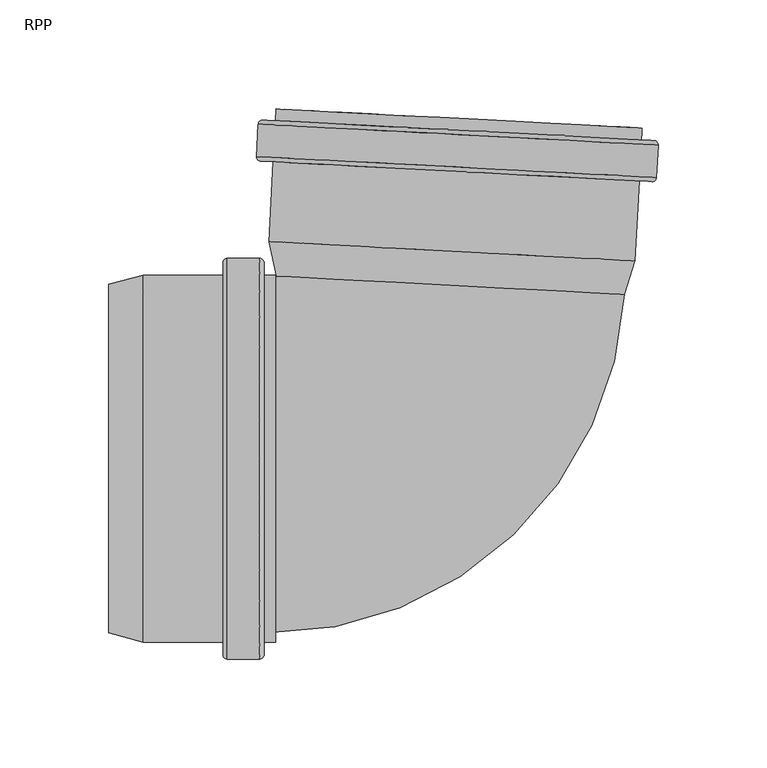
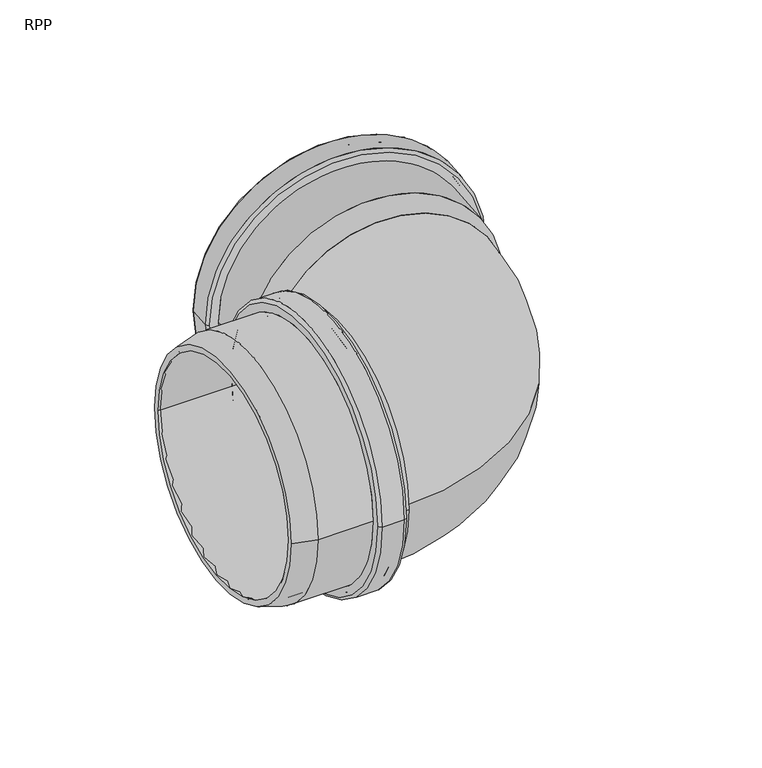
"""IFC4 building model written with IfcOpenShell, lengths in millimetres: pipe fitting geometry, RAUPIANO PLUS Bend : RPP."""

from ifc_helpers import new_model, si_unit, point, frame, origin, place, context, project, spatial, polyline, circle_curve, ellipse_curve, trimmed, source, transform, mapped, element, save
from ifc_brep_helpers import plane_surface, cylinder_surface, revolved_surface, advanced_brep


def rpp_3cfaf62b(model_context):
    return source(origin(), model_context, "Body", "AdvancedBrep", [
        advanced_brep(
        [(-96.4130236, -80.3, 0.0), (-96.4130236, 80.3, 0.0), (-136.5249655, 80.3, 0.0), (-136.5249655, -80.3, 0.0), (-95.9130236, -88.1, 0.0), (-95.9130236, 88.1, 0.0), (-96.4130236, 87.6, 0.0), (-96.4130236, -87.6, 0.0), (-85.8130236, -88.1, 0.0), (-85.8130236, 88.1, 0.0), (-85.3130236, -87.6, 0.0), (-85.3130236, 87.6, 0.0), (-76.0130236, -80.3, 0.0), (-76.0130236, 80.3, 0.0), (-85.3130236, 80.3, 0.0), (-85.3130236, -80.3, 0.0), (-81.4130236, -84.2, 0.0), (-81.4130236, 84.2, 0.0), (-76.0130236, 84.2, 0.0), (-76.0130236, -84.2, 0.0), (-83.4130236, -92.0, 0.0), (-83.4130236, 92.0, 0.0), (-81.4130236, 90.0, 0.0), (-81.4130236, -90.0, 0.0), (-98.3130236, -92.0, 0.0), (-98.3130236, 92.0, 0.0), (-100.3130236, -90.0, 0.0), (-100.3130236, 90.0, 0.0), (-137.0384102, -84.2, 0.0), (-137.0384102, 84.2, 0.0), (-100.3130236, 84.2, 0.0), (-100.3130236, -84.2, 0.0), (-152.7130236, -80.0, 0.0), (-152.7130236, 80.0, 0.0), (-152.7130236, 75.9624229, 0.0), (-152.7130236, -75.9624229, 0.0)],
        [
            (0, 1, circle_curve(frame((-96.4130236, 0.0, 0.0), z_axis=(1.0, 0.0, 0.0), x_axis=(0.0, 1.0, 0.0)), 80.3)),
            (1, 2),
            (2, 3, circle_curve(frame((-136.5249655, 0.0, 0.0), z_axis=(-1.0, 0.0, 0.0), x_axis=(0.0, 1.0, 0.0)), 80.3)),
            (3, 0),
            (4, 5, circle_curve(frame((-95.9130236, 0.0, 0.0), z_axis=(1.0, 0.0, 0.0), x_axis=(0.0, 1.0, 0.0)), 88.1)),
            (5, 6, circle_curve(frame((-95.9130236, 87.6, 0.0), z_axis=(0.0, 0.0, 1.0), x_axis=(0.0, -1.0, 0.0)), 0.5)),
            (6, 7, circle_curve(frame((-96.4130236, 0.0, 0.0), z_axis=(-1.0, 0.0, 0.0), x_axis=(0.0, 1.0, 0.0)), 87.6)),
            (7, 4, circle_curve(frame((-95.9130236, -87.6, 0.0), z_axis=(0.0, 0.0, 1.0), x_axis=(0.0, 1.0, 0.0)), 0.5)),
            (8, 9, circle_curve(frame((-85.8130236, 0.0, 0.0), z_axis=(1.0, 0.0, 0.0), x_axis=(0.0, 1.0, 0.0)), 88.1)),
            (9, 5),
            (4, 8),
            (10, 11, circle_curve(frame((-85.3130236, 0.0, 0.0), z_axis=(1.0, 0.0, 0.0), x_axis=(0.0, 1.0, 0.0)), 87.6)),
            (11, 9, circle_curve(frame((-85.8130236, 87.6, 0.0), z_axis=(0.0, 0.0, 1.0), x_axis=(0.0, -1.0, 0.0)), 0.5)),
            (8, 10, circle_curve(frame((-85.8130236, -87.6, 0.0), z_axis=(0.0, 0.0, 1.0), x_axis=(0.0, 1.0, 0.0)), 0.5)),
            (12, 13, circle_curve(frame((-76.0130236, 0.0, 0.0), z_axis=(1.0, 0.0, 0.0), x_axis=(0.0, 1.0, 0.0)), 80.3)),
            (13, 14),
            (14, 15, circle_curve(frame((-85.3130236, 0.0, 0.0), z_axis=(-1.0, 0.0, 0.0), x_axis=(0.0, 1.0, 0.0)), 80.3)),
            (15, 12),
            (16, 17, circle_curve(frame((-81.4130236, 0.0, 0.0), z_axis=(1.0, 0.0, 0.0), x_axis=(0.0, 1.0, 0.0)), 84.2)),
            (17, 18),
            (18, 19, circle_curve(frame((-76.0130236, 0.0, 0.0), z_axis=(-1.0, 0.0, 0.0), x_axis=(0.0, 1.0, 0.0)), 84.2)),
            (19, 16),
            (20, 21, circle_curve(frame((-83.4130236, 0.0, 0.0), z_axis=(1.0, 0.0, 0.0), x_axis=(0.0, 1.0, 0.0)), 92.0)),
            (21, 22, circle_curve(frame((-83.4130236, 90.0, 0.0), z_axis=(0.0, 0.0, -1.0), x_axis=(0.0, -1.0, 0.0)), 2.0)),
            (22, 23, circle_curve(frame((-81.4130236, 0.0, 0.0), z_axis=(-1.0, 0.0, 0.0), x_axis=(0.0, 1.0, 0.0)), 90.0)),
            (23, 20, circle_curve(frame((-83.4130236, -90.0, 0.0), z_axis=(0.0, 0.0, -1.0), x_axis=(0.0, 1.0, 0.0)), 2.0)),
            (24, 25, circle_curve(frame((-98.3130236, 0.0, 0.0), z_axis=(1.0, 0.0, 0.0), x_axis=(0.0, 1.0, 0.0)), 92.0)),
            (25, 21),
            (20, 24),
            (26, 27, circle_curve(frame((-100.3130236, 0.0, 0.0), z_axis=(1.0, 0.0, 0.0), x_axis=(0.0, 1.0, 0.0)), 90.0)),
            (27, 25, circle_curve(frame((-98.3130236, 90.0, 0.0), z_axis=(0.0, 0.0, -1.0), x_axis=(0.0, -1.0, 0.0)), 2.0)),
            (24, 26, circle_curve(frame((-98.3130236, -90.0, 0.0), z_axis=(0.0, 0.0, -1.0), x_axis=(0.0, 1.0, 0.0)), 2.0)),
            (28, 29, circle_curve(frame((-137.0384102, 0.0, 0.0), z_axis=(1.0, 0.0, 0.0), x_axis=(0.0, 1.0, 0.0)), 84.2)),
            (29, 30),
            (30, 31, circle_curve(frame((-100.3130236, 0.0, 0.0), z_axis=(-1.0, 0.0, 0.0), x_axis=(0.0, 1.0, 0.0)), 84.2)),
            (31, 28),
            (32, 33, circle_curve(frame((-152.7130236, 0.0, 0.0), z_axis=(1.0, 0.0, 0.0), x_axis=(0.0, 1.0, 0.0)), 80.0)),
            (33, 29),
            (28, 32),
            (2, 34),
            (34, 35, circle_curve(frame((-152.7130236, 0.0, 0.0), z_axis=(-1.0, 0.0, 0.0), x_axis=(0.0, 1.0, 0.0)), 75.9624229)),
            (35, 3),
            (1, 0, circle_curve(frame((-96.4130236, 0.0, 0.0), z_axis=(1.0, 0.0, 0.0), x_axis=(0.0, -1.0, 0.0)), 80.3)),
            (3, 2, circle_curve(frame((-136.5249655, 0.0, 0.0), z_axis=(-1.0, 0.0, 0.0), x_axis=(0.0, -1.0, 0.0)), 80.3)),
            (6, 7, circle_curve(frame((-96.4130236, 0.0, 0.0), z_axis=(1.0, 0.0, 0.0), x_axis=(0.0, -1.0, 0.0)), 87.6)),
            (5, 4, circle_curve(frame((-95.9130236, 0.0, 0.0), z_axis=(1.0, 0.0, 0.0), x_axis=(0.0, -1.0, 0.0)), 88.1)),
            (9, 8, circle_curve(frame((-85.8130236, 0.0, 0.0), z_axis=(1.0, 0.0, 0.0), x_axis=(0.0, -1.0, 0.0)), 88.1)),
            (11, 10, circle_curve(frame((-85.3130236, 0.0, 0.0), z_axis=(1.0, 0.0, 0.0), x_axis=(0.0, -1.0, 0.0)), 87.6)),
            (14, 15, circle_curve(frame((-85.3130236, 0.0, 0.0), z_axis=(1.0, 0.0, 0.0), x_axis=(0.0, -1.0, 0.0)), 80.3)),
            (13, 12, circle_curve(frame((-76.0130236, 0.0, 0.0), z_axis=(1.0, 0.0, 0.0), x_axis=(0.0, -1.0, 0.0)), 80.3)),
            (18, 19, circle_curve(frame((-76.0130236, 0.0, 0.0), z_axis=(1.0, 0.0, 0.0), x_axis=(0.0, -1.0, 0.0)), 84.2)),
            (17, 16, circle_curve(frame((-81.4130236, 0.0, 0.0), z_axis=(1.0, 0.0, 0.0), x_axis=(0.0, -1.0, 0.0)), 84.2)),
            (22, 23, circle_curve(frame((-81.4130236, 0.0, 0.0), z_axis=(1.0, 0.0, 0.0), x_axis=(0.0, -1.0, 0.0)), 90.0)),
            (21, 20, circle_curve(frame((-83.4130236, 0.0, 0.0), z_axis=(1.0, 0.0, 0.0), x_axis=(0.0, -1.0, 0.0)), 92.0)),
            (25, 24, circle_curve(frame((-98.3130236, 0.0, 0.0), z_axis=(1.0, 0.0, 0.0), x_axis=(0.0, -1.0, 0.0)), 92.0)),
            (27, 26, circle_curve(frame((-100.3130236, 0.0, 0.0), z_axis=(1.0, 0.0, 0.0), x_axis=(0.0, -1.0, 0.0)), 90.0)),
            (30, 31, circle_curve(frame((-100.3130236, 0.0, 0.0), z_axis=(1.0, 0.0, 0.0), x_axis=(0.0, -1.0, 0.0)), 84.2)),
            (29, 28, circle_curve(frame((-137.0384102, 0.0, 0.0), z_axis=(1.0, 0.0, 0.0), x_axis=(0.0, -1.0, 0.0)), 84.2)),
            (33, 32, circle_curve(frame((-152.7130236, 0.0, 0.0), z_axis=(1.0, 0.0, 0.0), x_axis=(0.0, -1.0, 0.0)), 80.0)),
            (34, 35, circle_curve(frame((-152.7130236, 0.0, 0.0), z_axis=(1.0, 0.0, 0.0), x_axis=(0.0, -1.0, 0.0)), 75.9624229)),
        ],
        [
            revolved_surface(polyline([(-136.5249655, 80.3, 0.0), (-96.4130236, 80.3, 0.0)]), (-152.7130236, 0.0, 0.0), (-1.0, 0.0, 0.0)),
            revolved_surface(trimmed(ellipse_curve(frame((-95.9130236, 87.6, 0.0), z_axis=(0.0, 0.0, -1.0), x_axis=(0.0, -1.0, 0.0)), 0.5, 0.5), [point((-96.4130236, 87.6, 0.0))], [point((-95.9130236, 88.1, 0.0))], True, "CARTESIAN"), (-152.7130236, 0.0, 0.0), (-1.0, 0.0, 0.0)),
            revolved_surface(polyline([(-95.9130236, 88.1, 0.0), (-85.8130236, 88.1, 0.0)]), (-152.7130236, 0.0, 0.0), (-1.0, 0.0, 0.0)),
            revolved_surface(trimmed(ellipse_curve(frame((-85.8130236, 87.6, 0.0), z_axis=(0.0, 0.0, -1.0), x_axis=(0.0, -1.0, 0.0)), 0.5, 0.5), [point((-85.8130236, 88.1, 0.0))], [point((-85.3130236, 87.6, 0.0))], True, "CARTESIAN"), (-152.7130236, 0.0, 0.0), (-1.0, 0.0, 0.0)),
            revolved_surface(polyline([(-85.3130236, 80.3, 0.0), (-76.0130236, 80.3, 0.0)]), (-152.7130236, 0.0, 0.0), (-1.0, 0.0, 0.0)),
            cylinder_surface(frame((-152.7130236, 0.0, 0.0), z_axis=(-1.0, 0.0, 0.0), x_axis=(0.0, 1.0, 0.0)), 84.2),
            revolved_surface(trimmed(ellipse_curve(frame((-83.4130236, 90.0, 0.0), z_axis=(0.0, 0.0, 1.0), x_axis=(0.0, -1.0, 0.0)), 2.0, 2.0), [point((-81.4130236, 90.0, 0.0))], [point((-83.4130236, 92.0, 0.0))], True, "CARTESIAN"), (-152.7130236, 0.0, 0.0), (-1.0, 0.0, 0.0)),
            cylinder_surface(frame((-152.7130236, 0.0, 0.0), z_axis=(-1.0, 0.0, 0.0), x_axis=(0.0, 1.0, 0.0)), 92.0),
            revolved_surface(trimmed(ellipse_curve(frame((-98.3130236, 90.0, 0.0), z_axis=(0.0, 0.0, 1.0), x_axis=(0.0, -1.0, 0.0)), 2.0, 2.0), [point((-98.3130236, 92.0, 0.0))], [point((-100.3130236, 90.0, 0.0))], True, "CARTESIAN"), (-152.7130236, 0.0, 0.0), (-1.0, 0.0, 0.0)),
            revolved_surface(polyline([(-137.0384102, 84.2, 0.0), (-152.7130236, 80.0, 0.0)]), (-152.7130236, 0.0, 0.0), (-1.0, 0.0, 0.0)),
            revolved_surface(polyline([(-152.7130236, 75.9624229, 0.0), (-136.5249655, 80.3, 0.0)]), (-152.7130236, 0.0, 0.0), (-1.0, 0.0, 0.0)),
            revolved_surface(polyline([(-136.5249655, -80.3, 0.0), (-96.4130236, -80.3, 0.0)]), (-152.7130236, 0.0, 0.0), (-1.0, 0.0, 0.0)),
            plane_surface(frame((-96.4130236, 0.0, 0.0), z_axis=(1.0, 0.0, 0.0), x_axis=(0.0, -1.0, 0.0))),
            revolved_surface(trimmed(ellipse_curve(frame((-95.9130236, -87.6, 0.0), z_axis=(0.0, 0.0, 1.0), x_axis=(0.0, 1.0, 0.0)), 0.5, 0.5), [point((-96.4130236, -87.6, 0.0))], [point((-95.9130236, -88.1, 0.0))], True, "CARTESIAN"), (-152.7130236, 0.0, 0.0), (-1.0, 0.0, 0.0)),
            revolved_surface(polyline([(-95.9130236, -88.1, 0.0), (-85.8130236, -88.1, 0.0)]), (-152.7130236, 0.0, 0.0), (-1.0, 0.0, 0.0)),
            revolved_surface(trimmed(ellipse_curve(frame((-85.8130236, -87.6, 0.0), z_axis=(0.0, 0.0, 1.0), x_axis=(0.0, 1.0, 0.0)), 0.5, 0.5), [point((-85.8130236, -88.1, 0.0))], [point((-85.3130236, -87.6, 0.0))], True, "CARTESIAN"), (-152.7130236, 0.0, 0.0), (-1.0, 0.0, 0.0)),
            plane_surface(frame((-85.3130236, 0.0, 0.0), z_axis=(-1.0, 0.0, 0.0), x_axis=(0.0, -1.0, 0.0))),
            revolved_surface(polyline([(-85.3130236, -80.3, 0.0), (-76.0130236, -80.3, 0.0)]), (-152.7130236, 0.0, 0.0), (-1.0, 0.0, 0.0)),
            plane_surface(frame((-76.0130236, 0.0, 0.0), z_axis=(1.0, 0.0, 0.0), x_axis=(0.0, -1.0, 0.0))),
            cylinder_surface(frame((-152.7130236, 0.0, 0.0), z_axis=(-1.0, 0.0, 0.0), x_axis=(0.0, -1.0, 0.0)), 84.2),
            plane_surface(frame((-81.4130236, 0.0, 0.0), z_axis=(1.0, 0.0, 0.0), x_axis=(0.0, -1.0, 0.0))),
            revolved_surface(trimmed(ellipse_curve(frame((-83.4130236, -90.0, 0.0), z_axis=(0.0, 0.0, -1.0), x_axis=(0.0, 1.0, 0.0)), 2.0, 2.0), [point((-81.4130236, -90.0, 0.0))], [point((-83.4130236, -92.0, 0.0))], True, "CARTESIAN"), (-152.7130236, 0.0, 0.0), (-1.0, 0.0, 0.0)),
            cylinder_surface(frame((-152.7130236, 0.0, 0.0), z_axis=(-1.0, 0.0, 0.0), x_axis=(0.0, -1.0, 0.0)), 92.0),
            revolved_surface(trimmed(ellipse_curve(frame((-98.3130236, -90.0, 0.0), z_axis=(0.0, 0.0, -1.0), x_axis=(0.0, 1.0, 0.0)), 2.0, 2.0), [point((-98.3130236, -92.0, 0.0))], [point((-100.3130236, -90.0, 0.0))], True, "CARTESIAN"), (-152.7130236, 0.0, 0.0), (-1.0, 0.0, 0.0)),
            plane_surface(frame((-100.3130236, 0.0, 0.0), z_axis=(-1.0, 0.0, 0.0), x_axis=(0.0, -1.0, 0.0))),
            revolved_surface(polyline([(-137.0384102, -84.2, 0.0), (-152.7130236, -80.0, 0.0)]), (-152.7130236, 0.0, 0.0), (-1.0, 0.0, 0.0)),
            plane_surface(frame((-152.7130236, 0.0, 0.0), z_axis=(-1.0, 0.0, 0.0), x_axis=(0.0, -1.0, 0.0))),
            revolved_surface(polyline([(-152.7130236, -75.9624229, 0.0), (-136.5249655, -80.3, 0.0)]), (-152.7130236, 0.0, 0.0), (-1.0, 0.0, 0.0)),
        ],
        [
            (0, [[1, 2, 3, 4]]),
            (1, [[5, 6, 7, 8]]),
            (2, [[9, 10, -5, 11]]),
            (3, [[12, 13, -9, 14]]),
            (4, [[15, 16, 17, 18]]),
            (5, [[19, 20, 21, 22]]),
            (6, [[23, 24, 25, 26]]),
            (7, [[27, 28, -23, 29]]),
            (8, [[30, 31, -27, 32]]),
            (5, [[33, 34, 35, 36]]),
            (9, [[37, 38, -33, 39]]),
            (10, [[-3, 40, 41, 42]]),
            (11, [[43, -4, 44, -2]]),
            (12, [[45, -7], [-43, -1]]),
            (13, [[46, -8, -45, -6]]),
            (14, [[47, -11, -46, -10]]),
            (15, [[48, -14, -47, -13]]),
            (16, [[-48, -12], [49, -17]]),
            (17, [[50, -18, -49, -16]]),
            (18, [[51, -21], [-50, -15]]),
            (19, [[52, -22, -51, -20]]),
            (20, [[53, -25], [-52, -19]]),
            (21, [[54, -26, -53, -24]]),
            (22, [[55, -29, -54, -28]]),
            (23, [[56, -32, -55, -31]]),
            (24, [[-56, -30], [57, -35]]),
            (19, [[58, -36, -57, -34]]),
            (25, [[59, -39, -58, -38]]),
            (26, [[-59, -37], [60, -41]]),
            (27, [[-44, -42, -60, -40]]),
        ],
    ),
        advanced_brep(
        [(80.0301764, 75.6282136, 0.0), (-71.6864617, 83.5793457, 0.0), (-75.1708768, 99.9722299, 0.0), (85.2090265, 91.5670754, 0.0), (89.07681, 90.850224, 0.0), (-79.0924036, 99.6635991, 0.0), (-75.7185055, 83.7906562, 0.0), (84.0622201, 75.4169032, 0.0), (90.9988682, 127.5252798, 0.0), (-77.1703454, 136.3386548, 0.0), (99.6726563, 143.9938985, 0.0), (-84.0751781, 153.6237144, 0.0), (-84.8549839, 138.7441343, 0.0), (98.8928505, 129.1143184, 0.0), (92.270632, 151.7919775, 0.0), (-75.8985817, 160.6053525, 0.0), (-76.1811958, 155.212753, 0.0), (91.9880178, 146.399378, 0.0), (87.8892524, 142.708833, 0.0), (-72.4906509, 151.1139876, 0.0), (-72.0039265, 160.4012423, 0.0), (88.3759768, 151.9960877, 0.0), (95.1238016, 131.7151395, 0.0), (-80.8347224, 140.936735, 0.0), (-80.3061292, 151.0228933, 0.0), (95.6523948, 141.8012978, 0.0), (-73.07158, 140.0291998, 0.0), (87.3083233, 131.6240452, 0.0), (-82.9623967, 136.6422034, 0.0), (96.7909196, 127.2217312, 0.0), (97.7800691, 146.0958294, 0.0), (-81.9732471, 155.5163016, 0.0), (-79.7806465, 151.4960401, 0.0), (95.179248, 142.3267806, 0.0), (94.5983189, 131.2419927, 0.0), (-80.3615756, 140.4112522, 0.0)],
        [
            (0, 1, circle_curve(frame((4.1718573, 79.6037797, 0.0), z_axis=(-0.05233595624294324, -0.9986295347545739, 0.0), x_axis=(-0.9986295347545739, 0.05233595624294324, 0.0)), 75.9624229)),
            (1, 2),
            (2, 3, circle_curve(frame((5.0190748, 95.7696526, 0.0), z_axis=(0.05233595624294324, 0.9986295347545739, 0.0), x_axis=(-0.9986295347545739, 0.05233595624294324, 0.0)), 80.3)),
            (3, 0),
            (4, 5, circle_curve(frame((4.9922032, 95.2569116, 0.0), z_axis=(-0.05233595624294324, -0.9986295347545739, 0.0), x_axis=(-0.9986295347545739, 0.05233595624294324, 0.0)), 84.2)),
            (5, 6),
            (6, 7, circle_curve(frame((4.1718573, 79.6037797, 0.0), z_axis=(0.05233595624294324, 0.9986295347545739, 0.0), x_axis=(-0.9986295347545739, 0.05233595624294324, 0.0)), 80.0)),
            (7, 4),
            (8, 9, circle_curve(frame((6.9142614, 131.9319673, 0.0), z_axis=(-0.05233595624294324, -0.9986295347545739, 0.0), x_axis=(-0.9986295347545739, 0.05233595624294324, 0.0)), 84.2)),
            (9, 5),
            (4, 8),
            (10, 11, circle_curve(frame((7.7987391, 148.8088064, 0.0), z_axis=(-0.05233595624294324, -0.9986295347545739, 0.0), x_axis=(-0.9986295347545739, 0.05233595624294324, 0.0)), 92.0)),
            (11, 12),
            (12, 13, circle_curve(frame((7.0189333, 133.9292264, 0.0), z_axis=(0.05233595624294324, 0.9986295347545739, 0.0), x_axis=(-0.9986295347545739, 0.05233595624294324, 0.0)), 92.0)),
            (13, 10),
            (14, 15, circle_curve(frame((8.1860252, 156.198665, 0.0), z_axis=(-0.05233595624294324, -0.9986295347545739, 0.0), x_axis=(-0.9986295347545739, 0.05233595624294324, 0.0)), 84.2)),
            (15, 16),
            (16, 17, circle_curve(frame((7.903411, 150.8060655, 0.0), z_axis=(0.05233595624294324, 0.9986295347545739, 0.0), x_axis=(-0.9986295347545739, 0.05233595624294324, 0.0)), 84.2)),
            (17, 14),
            (18, 19, circle_curve(frame((7.6993008, 146.9114103, 0.0), z_axis=(-0.05233595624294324, -0.9986295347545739, 0.0), x_axis=(-0.9986295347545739, 0.05233595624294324, 0.0)), 80.3)),
            (19, 20),
            (20, 21, circle_curve(frame((8.1860252, 156.198665, 0.0), z_axis=(0.05233595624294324, 0.9986295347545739, 0.0), x_axis=(-0.9986295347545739, 0.05233595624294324, 0.0)), 80.3)),
            (21, 18),
            (22, 23, circle_curve(frame((7.1445396, 136.3259372, 0.0), z_axis=(-0.05233595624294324, -0.9986295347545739, 0.0), x_axis=(-0.9986295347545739, 0.05233595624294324, 0.0)), 88.1)),
            (23, 24),
            (24, 25, circle_curve(frame((7.6731328, 146.4120956, 0.0), z_axis=(0.05233595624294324, 0.9986295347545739, 0.0), x_axis=(-0.9986295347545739, 0.05233595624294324, 0.0)), 88.1)),
            (25, 22),
            (2, 26),
            (26, 27, circle_curve(frame((7.1183717, 135.8266225, 0.0), z_axis=(0.05233595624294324, 0.9986295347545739, 0.0), x_axis=(-0.9986295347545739, 0.05233595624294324, 0.0)), 80.3)),
            (27, 3),
            (1, 0, circle_curve(frame((4.1718573, 79.6037797, 0.0), z_axis=(-0.05233595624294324, -0.9986295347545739, 0.0), x_axis=(0.9986295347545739, -0.05233595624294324, 0.0)), 75.9624229)),
            (3, 2, circle_curve(frame((5.0190748, 95.7696526, 0.0), z_axis=(0.05233595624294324, 0.9986295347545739, 0.0), x_axis=(0.9986295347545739, -0.05233595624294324, 0.0)), 80.3)),
            (6, 7, circle_curve(frame((4.1718573, 79.6037797, 0.0), z_axis=(-0.05233595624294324, -0.9986295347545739, 0.0), x_axis=(0.9986295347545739, -0.05233595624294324, 0.0)), 80.0)),
            (5, 4, circle_curve(frame((4.9922032, 95.2569116, 0.0), z_axis=(-0.05233595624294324, -0.9986295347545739, 0.0), x_axis=(0.9986295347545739, -0.05233595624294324, 0.0)), 84.2)),
            (9, 8, circle_curve(frame((6.9142614, 131.9319673, 0.0), z_axis=(-0.05233595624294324, -0.9986295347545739, 0.0), x_axis=(0.9986295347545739, -0.05233595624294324, 0.0)), 84.2)),
            (28, 29, circle_curve(frame((6.9142614, 131.9319673, 0.0), z_axis=(-0.05233595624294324, -0.9986295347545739, 0.0), x_axis=(0.9986295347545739, -0.05233595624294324, 0.0)), 90.0)),
            (29, 28, circle_curve(frame((6.9142614, 131.9319673, 0.0), z_axis=(-0.05233595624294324, -0.9986295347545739, 0.0), x_axis=(-0.9986295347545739, 0.05233595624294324, 0.0)), 90.0)),
            (11, 10, circle_curve(frame((7.7987391, 148.8088064, 0.0), z_axis=(-0.05233595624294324, -0.9986295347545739, 0.0), x_axis=(0.9986295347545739, -0.05233595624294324, 0.0)), 92.0)),
            (13, 12, circle_curve(frame((7.0189333, 133.9292264, 0.0), z_axis=(0.05233595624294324, 0.9986295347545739, 0.0), x_axis=(0.9986295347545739, -0.05233595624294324, 0.0)), 92.0)),
            (30, 31, circle_curve(frame((7.903411, 150.8060655, 0.0), z_axis=(0.05233595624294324, 0.9986295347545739, 0.0), x_axis=(0.9986295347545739, -0.05233595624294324, 0.0)), 90.0)),
            (31, 30, circle_curve(frame((7.903411, 150.8060655, 0.0), z_axis=(0.05233595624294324, 0.9986295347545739, 0.0), x_axis=(-0.9986295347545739, 0.05233595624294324, 0.0)), 90.0)),
            (16, 17, circle_curve(frame((7.903411, 150.8060655, 0.0), z_axis=(-0.05233595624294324, -0.9986295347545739, 0.0), x_axis=(0.9986295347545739, -0.05233595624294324, 0.0)), 84.2)),
            (15, 14, circle_curve(frame((8.1860252, 156.198665, 0.0), z_axis=(-0.05233595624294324, -0.9986295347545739, 0.0), x_axis=(0.9986295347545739, -0.05233595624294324, 0.0)), 84.2)),
            (20, 21, circle_curve(frame((8.1860252, 156.198665, 0.0), z_axis=(-0.05233595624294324, -0.9986295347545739, 0.0), x_axis=(0.9986295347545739, -0.05233595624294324, 0.0)), 80.3)),
            (19, 18, circle_curve(frame((7.6993008, 146.9114103, 0.0), z_axis=(-0.05233595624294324, -0.9986295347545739, 0.0), x_axis=(0.9986295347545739, -0.05233595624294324, 0.0)), 80.3)),
            (32, 33, circle_curve(frame((7.6993008, 146.9114103, 0.0), z_axis=(-0.05233595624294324, -0.9986295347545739, 0.0), x_axis=(0.9986295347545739, -0.05233595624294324, 0.0)), 87.6)),
            (33, 32, circle_curve(frame((7.6993008, 146.9114103, 0.0), z_axis=(-0.05233595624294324, -0.9986295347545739, 0.0), x_axis=(-0.9986295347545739, 0.05233595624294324, 0.0)), 87.6)),
            (23, 22, circle_curve(frame((7.1445396, 136.3259372, 0.0), z_axis=(-0.05233595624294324, -0.9986295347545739, 0.0), x_axis=(0.9986295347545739, -0.05233595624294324, 0.0)), 88.1)),
            (25, 24, circle_curve(frame((7.6731328, 146.4120956, 0.0), z_axis=(0.05233595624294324, 0.9986295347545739, 0.0), x_axis=(0.9986295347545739, -0.05233595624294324, 0.0)), 88.1)),
            (34, 35, circle_curve(frame((7.1183717, 135.8266225, 0.0), z_axis=(0.05233595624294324, 0.9986295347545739, 0.0), x_axis=(0.9986295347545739, -0.05233595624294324, 0.0)), 87.6)),
            (35, 34, circle_curve(frame((7.1183717, 135.8266225, 0.0), z_axis=(0.05233595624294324, 0.9986295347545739, 0.0), x_axis=(-0.9986295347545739, 0.05233595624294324, 0.0)), 87.6)),
            (26, 27, circle_curve(frame((7.1183717, 135.8266225, 0.0), z_axis=(-0.05233595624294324, -0.9986295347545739, 0.0), x_axis=(0.9986295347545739, -0.05233595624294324, 0.0)), 80.3)),
            (12, 28, circle_curve(frame((-82.8577248, 138.6394624, 0.0), z_axis=(0.0, 0.0, 1.0), x_axis=(0.9986295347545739, -0.05233595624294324, 0.0)), 2.0)),
            (29, 13, circle_curve(frame((96.8955915, 129.2189903, 0.0), z_axis=(0.0, 0.0, 1.0), x_axis=(-0.9986295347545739, 0.05233595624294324, 0.0)), 2.0)),
            (31, 11, circle_curve(frame((-82.077919, 153.5190425, 0.0), z_axis=(0.0, 0.0, 1.0), x_axis=(0.9986295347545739, -0.05233595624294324, 0.0)), 2.0)),
            (10, 30, circle_curve(frame((97.6753972, 144.0985704, 0.0), z_axis=(0.0, 0.0, 1.0), x_axis=(-0.9986295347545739, 0.05233595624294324, 0.0)), 2.0)),
            (24, 32, circle_curve(frame((-79.8068145, 150.9967253, 0.0), z_axis=(0.0, 0.0, -1.0), x_axis=(0.9986295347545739, -0.05233595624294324, 0.0)), 0.5)),
            (33, 25, circle_curve(frame((95.15308, 141.8274658, 0.0), z_axis=(0.0, 0.0, -1.0), x_axis=(-0.9986295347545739, 0.05233595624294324, 0.0)), 0.5)),
            (35, 23, circle_curve(frame((-80.3354076, 140.910567, 0.0), z_axis=(0.0, 0.0, -1.0), x_axis=(0.9986295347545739, -0.05233595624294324, 0.0)), 0.5)),
            (22, 34, circle_curve(frame((94.6244869, 131.7413075, 0.0), z_axis=(0.0, 0.0, -1.0), x_axis=(-0.9986295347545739, 0.05233595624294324, 0.0)), 0.5)),
        ],
        [
            revolved_surface(polyline([(-75.1708768, 99.9722299, 0.0), (-71.6864617, 83.5793457, 0.0)]), (4.1718573, 79.6037797, 0.0), (0.05233595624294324, 0.9986295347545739, 0.0)),
            revolved_surface(polyline([(-75.7185055, 83.7906562, 0.0), (-79.0924036, 99.6635991, 0.0)]), (4.1718573, 79.6037797, 0.0), (0.05233595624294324, 0.9986295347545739, 0.0)),
            cylinder_surface(frame((4.1718573, 79.6037797, 0.0), z_axis=(0.05233595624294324, 0.9986295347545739, 0.0), x_axis=(-0.9986295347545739, 0.05233595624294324, 0.0)), 84.2),
            cylinder_surface(frame((4.1718573, 79.6037797, 0.0), z_axis=(0.05233595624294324, 0.9986295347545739, 0.0), x_axis=(-0.9986295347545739, 0.05233595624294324, 0.0)), 92.0),
            revolved_surface(polyline([(-72.00392649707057, 160.4012422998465, 0.0), (-72.49065089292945, 151.11398757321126, 0.0)]), (4.1718573, 79.6037797, 0.0), (0.05233595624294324, 0.9986295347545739, 0.0)),
            revolved_surface(polyline([(-80.30612923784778, 151.0228933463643, 0.0), (-80.83472240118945, 140.93673494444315, 0.0)]), (4.1718573, 79.6037797, 0.0), (0.05233595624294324, 0.9986295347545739, 0.0)),
            revolved_surface(polyline([(-73.07158000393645, 140.0291998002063, 0.0), (-75.17087684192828, 99.97222988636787, 0.0)]), (4.1718573, 79.6037797, 0.0), (0.05233595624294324, 0.9986295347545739, 0.0)),
            revolved_surface(polyline([(85.2090265, 91.5670754, 0.0), (80.0301764, 75.6282136, 0.0)]), (4.1718573, 79.6037797, 0.0), (0.05233595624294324, 0.9986295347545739, 0.0)),
            plane_surface(frame((4.1718573, 79.6037797, 0.0), z_axis=(-0.05233595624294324, -0.9986295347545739, 0.0), x_axis=(0.9986295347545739, -0.05233595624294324, 0.0))),
            revolved_surface(polyline([(84.0622201, 75.4169032, 0.0), (89.07681, 90.850224, 0.0)]), (4.1718573, 79.6037797, 0.0), (0.05233595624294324, 0.9986295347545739, 0.0)),
            cylinder_surface(frame((4.1718573, 79.6037797, 0.0), z_axis=(0.05233595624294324, 0.9986295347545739, 0.0), x_axis=(0.9986295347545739, -0.05233595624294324, 0.0)), 84.2),
            plane_surface(frame((6.9142614, 131.9319673, 0.0), z_axis=(-0.05233595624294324, -0.9986295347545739, 0.0), x_axis=(0.9986295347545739, -0.05233595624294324, 0.0))),
            cylinder_surface(frame((4.1718573, 79.6037797, 0.0), z_axis=(0.05233595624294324, 0.9986295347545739, 0.0), x_axis=(0.9986295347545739, -0.05233595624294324, 0.0)), 92.0),
            plane_surface(frame((7.903411, 150.8060655, 0.0), z_axis=(0.05233595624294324, 0.9986295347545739, 0.0), x_axis=(0.9986295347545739, -0.05233595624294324, 0.0))),
            plane_surface(frame((8.1860252, 156.198665, 0.0), z_axis=(0.05233595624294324, 0.9986295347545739, 0.0), x_axis=(0.9986295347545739, -0.05233595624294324, 0.0))),
            revolved_surface(polyline([(88.37597678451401, 151.9960877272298, 0.0), (87.88925238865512, 142.70883300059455, 0.0)]), (4.1718573, 79.6037797, 0.0), (0.05233595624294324, 0.9986295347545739, 0.0)),
            plane_surface(frame((7.6993008, 146.9114103, 0.0), z_axis=(-0.05233595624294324, -0.9986295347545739, 0.0), x_axis=(0.9986295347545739, -0.05233595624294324, 0.0))),
            revolved_surface(polyline([(95.65239478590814, 141.80129785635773, 0.0), (95.12380162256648, 131.71513945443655, 0.0)]), (4.1718573, 79.6037797, 0.0), (0.05233595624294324, 0.9986295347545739, 0.0)),
            plane_surface(frame((7.1183717, 135.8266225, 0.0), z_axis=(0.05233595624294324, 0.9986295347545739, 0.0), x_axis=(0.9986295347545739, -0.05233595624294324, 0.0))),
            revolved_surface(polyline([(87.30832327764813, 131.6240452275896, 0.0), (85.2090264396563, 91.56707531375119, 0.0)]), (4.1718573, 79.6037797, 0.0), (0.05233595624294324, 0.9986295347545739, 0.0)),
            revolved_surface(trimmed(ellipse_curve(frame((-82.8577248, 138.6394624, 0.0), z_axis=(0.0, 0.0, -1.0), x_axis=(0.9986295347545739, -0.05233595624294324, 0.0)), 2.0, 2.0), [point((-82.9623967, 136.6422034, 0.0))], [point((-84.8549839, 138.7441343, 0.0))], True, "CARTESIAN"), (4.1718573, 79.6037797, 0.0), (0.05233595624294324, 0.9986295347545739, 0.0)),
            revolved_surface(trimmed(ellipse_curve(frame((-82.077919, 153.5190425, 0.0), z_axis=(0.0, 0.0, -1.0), x_axis=(0.9986295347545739, -0.05233595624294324, 0.0)), 2.0, 2.0), [point((-84.0751781, 153.6237144, 0.0))], [point((-81.9732471, 155.5163016, 0.0))], True, "CARTESIAN"), (4.1718573, 79.6037797, 0.0), (0.05233595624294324, 0.9986295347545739, 0.0)),
            revolved_surface(trimmed(ellipse_curve(frame((-79.8068145, 150.9967253, 0.0), z_axis=(0.0, 0.0, 1.0), x_axis=(0.9986295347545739, -0.05233595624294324, 0.0)), 0.5, 0.5), [point((-79.7806465, 151.4960401, 0.0))], [point((-80.3061292, 151.0228933, 0.0))], True, "CARTESIAN"), (4.1718573, 79.6037797, 0.0), (0.05233595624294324, 0.9986295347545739, 0.0)),
            revolved_surface(trimmed(ellipse_curve(frame((-80.3354076, 140.910567, 0.0), z_axis=(0.0, 0.0, 1.0), x_axis=(0.9986295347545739, -0.05233595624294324, 0.0)), 0.5, 0.5), [point((-80.8347224, 140.936735, 0.0))], [point((-80.3615756, 140.4112522, 0.0))], True, "CARTESIAN"), (4.1718573, 79.6037797, 0.0), (0.05233595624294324, 0.9986295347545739, 0.0)),
            revolved_surface(trimmed(ellipse_curve(frame((96.8955915, 129.2189903, 0.0), z_axis=(0.0, 0.0, 1.0), x_axis=(-0.9986295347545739, 0.05233595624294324, 0.0)), 2.0, 2.0), [point((96.7909196, 127.2217312, 0.0))], [point((98.8928505, 129.1143184, 0.0))], True, "CARTESIAN"), (4.1718573, 79.6037797, 0.0), (0.05233595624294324, 0.9986295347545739, 0.0)),
            revolved_surface(trimmed(ellipse_curve(frame((97.6753972, 144.0985704, 0.0), z_axis=(0.0, 0.0, 1.0), x_axis=(-0.9986295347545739, 0.05233595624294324, 0.0)), 2.0, 2.0), [point((99.6726563, 143.9938985, 0.0))], [point((97.7800691, 146.0958294, 0.0))], True, "CARTESIAN"), (4.1718573, 79.6037797, 0.0), (0.05233595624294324, 0.9986295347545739, 0.0)),
            revolved_surface(trimmed(ellipse_curve(frame((95.15308, 141.8274658, 0.0), z_axis=(0.0, 0.0, -1.0), x_axis=(-0.9986295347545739, 0.05233595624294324, 0.0)), 0.5, 0.5), [point((95.179248, 142.3267806, 0.0))], [point((95.6523948, 141.8012978, 0.0))], True, "CARTESIAN"), (4.1718573, 79.6037797, 0.0), (0.05233595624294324, 0.9986295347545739, 0.0)),
            revolved_surface(trimmed(ellipse_curve(frame((94.6244869, 131.7413075, 0.0), z_axis=(0.0, 0.0, -1.0), x_axis=(-0.9986295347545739, 0.05233595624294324, 0.0)), 0.5, 0.5), [point((95.1238016, 131.7151395, 0.0))], [point((94.5983189, 131.2419927, 0.0))], True, "CARTESIAN"), (4.1718573, 79.6037797, 0.0), (0.05233595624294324, 0.9986295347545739, 0.0)),
        ],
        [
            (0, [[1, 2, 3, 4]]),
            (1, [[5, 6, 7, 8]]),
            (2, [[9, 10, -5, 11]]),
            (3, [[12, 13, 14, 15]]),
            (2, [[16, 17, 18, 19]]),
            (4, [[20, 21, 22, 23]]),
            (5, [[24, 25, 26, 27]]),
            (6, [[-3, 28, 29, 30]]),
            (7, [[31, -4, 32, -2]]),
            (8, [[33, -7], [-31, -1]]),
            (9, [[34, -8, -33, -6]]),
            (10, [[35, -11, -34, -10]]),
            (11, [[36, 37], [-35, -9]]),
            (12, [[38, -15, 39, -13]]),
            (13, [[40, 41], [42, -18]]),
            (10, [[43, -19, -42, -17]]),
            (14, [[-43, -16], [44, -22]]),
            (15, [[45, -23, -44, -21]]),
            (16, [[46, 47], [-45, -20]]),
            (17, [[48, -27, 49, -25]]),
            (18, [[50, 51], [52, -29]]),
            (19, [[-32, -30, -52, -28]]),
            (20, [[-14, 53, -37, 54]]),
            (21, [[-41, 55, -12, 56]]),
            (22, [[-26, 57, -47, 58]]),
            (23, [[-51, 59, -24, 60]]),
            (24, [[-39, -54, -36, -53]]),
            (25, [[-40, -56, -38, -55]]),
            (26, [[-49, -58, -46, -57]]),
            (27, [[-50, -60, -48, -59]]),
        ],
    ),
        advanced_brep(
        [(-79.7130236, 76.1, 0.0), (-79.7130236, -76.1, 0.0), (-152.7130236, -76.1, 0.0), (-152.7130236, 76.1, 0.0), (-141.1436661, 80.0, 0.0), (-141.1436661, -80.0, 0.0), (-79.7130236, -80.0, 0.0), (-79.7130236, 80.0, 0.0), (-152.7130236, 76.9, 0.0), (-152.7130236, -76.9, 0.0)],
        [
            (0, 1, circle_curve(frame((-79.7130236, 0.0, 0.0), z_axis=(1.0, 0.0, 0.0), x_axis=(0.0, -1.0, 0.0)), 76.1)),
            (1, 2),
            (2, 3, circle_curve(frame((-152.7130236, 0.0, 0.0), z_axis=(-1.0, 0.0, 0.0), x_axis=(0.0, -1.0, 0.0)), 76.1)),
            (3, 0),
            (4, 5, circle_curve(frame((-141.1436661, 0.0, 0.0), z_axis=(1.0, 0.0, 0.0), x_axis=(0.0, -1.0, 0.0)), 80.0)),
            (5, 6),
            (6, 7, circle_curve(frame((-79.7130236, 0.0, 0.0), z_axis=(-1.0, 0.0, 0.0), x_axis=(0.0, -1.0, 0.0)), 80.0)),
            (7, 4),
            (8, 9, circle_curve(frame((-152.7130236, 0.0, 0.0), z_axis=(1.0, 0.0, 0.0), x_axis=(0.0, -1.0, 0.0)), 76.9)),
            (9, 5),
            (4, 8),
            (1, 0, circle_curve(frame((-79.7130236, 0.0, 0.0), z_axis=(1.0, 0.0, 0.0), x_axis=(0.0, 1.0, 0.0)), 76.1)),
            (3, 2, circle_curve(frame((-152.7130236, 0.0, 0.0), z_axis=(-1.0, 0.0, 0.0), x_axis=(0.0, 1.0, 0.0)), 76.1)),
            (6, 7, circle_curve(frame((-79.7130236, 0.0, 0.0), z_axis=(1.0, 0.0, 0.0), x_axis=(0.0, 1.0, 0.0)), 80.0)),
            (5, 4, circle_curve(frame((-141.1436661, 0.0, 0.0), z_axis=(1.0, 0.0, 0.0), x_axis=(0.0, 1.0, 0.0)), 80.0)),
            (9, 8, circle_curve(frame((-152.7130236, 0.0, 0.0), z_axis=(1.0, 0.0, 0.0), x_axis=(0.0, 1.0, 0.0)), 76.9)),
        ],
        [
            revolved_surface(polyline([(-152.7130236, -76.1, 0.0), (-79.7130236, -76.1, 0.0)]), (-79.7130236, 0.0, 0.0), (-1.0, 0.0, 0.0)),
            cylinder_surface(frame((-79.7130236, 0.0, 0.0), z_axis=(-1.0, 0.0, 0.0), x_axis=(0.0, -1.0, 0.0)), 80.0),
            revolved_surface(polyline([(-141.1436661, -80.0, 0.0), (-152.7130236, -76.9, 0.0)]), (-79.7130236, 0.0, 0.0), (-1.0, 0.0, 0.0)),
            revolved_surface(polyline([(-152.7130236, 76.1, 0.0), (-79.7130236, 76.1, 0.0)]), (-79.7130236, 0.0, 0.0), (-1.0, 0.0, 0.0)),
            plane_surface(frame((-79.7130236, 0.0, 0.0), z_axis=(1.0, 0.0, 0.0), x_axis=(0.0, 1.0, 0.0))),
            cylinder_surface(frame((-79.7130236, 0.0, 0.0), z_axis=(-1.0, 0.0, 0.0), x_axis=(0.0, 1.0, 0.0)), 80.0),
            revolved_surface(polyline([(-141.1436661, 80.0, 0.0), (-152.7130236, 76.9, 0.0)]), (-79.7130236, 0.0, 0.0), (-1.0, 0.0, 0.0)),
            plane_surface(frame((-152.7130236, 0.0, 0.0), z_axis=(-1.0, 0.0, 0.0), x_axis=(0.0, 1.0, 0.0))),
        ],
        [
            (0, [[1, 2, 3, 4]]),
            (1, [[5, 6, 7, 8]]),
            (2, [[9, 10, -5, 11]]),
            (3, [[12, -4, 13, -2]]),
            (4, [[14, -7], [-12, -1]]),
            (5, [[15, -8, -14, -6]]),
            (6, [[16, -11, -15, -10]]),
            (7, [[-16, -9], [-13, -3]]),
        ],
    ),
        advanced_brep(
        [(-79.7130236, -80.0, 0.0), (-79.7130236, 80.0, 0.0), (-79.7130236, -76.1, 0.0), (-79.7130236, 76.1, 0.0), (84.0622201, 75.4169032, 0.0), (-75.7185055, 83.7906562, 0.0), (80.1675649, 75.6210134, 0.0), (-71.8238503, 83.5865459, 0.0)],
        [
            (0, 1, circle_curve(frame((-79.7130236, 0.0, 0.0), z_axis=(-1.0, 0.0, 0.0), x_axis=(0.0, 1.0, 0.0)), 80.0)),
            (1, 0, circle_curve(frame((-79.7130236, 0.0, 0.0), z_axis=(-1.0, 0.0, 0.0), x_axis=(0.0, 1.0, 0.0)), 80.0)),
            (2, 3, circle_curve(frame((-79.7130236, 0.0, 0.0), z_axis=(1.0, 0.0, 0.0), x_axis=(0.0, 1.0, 0.0)), 76.1)),
            (3, 2, circle_curve(frame((-79.7130236, 0.0, 0.0), z_axis=(1.0, 0.0, 0.0), x_axis=(0.0, 1.0, 0.0)), 76.1)),
            (4, 5, circle_curve(frame((4.1718573, 79.6037797, 0.0), z_axis=(0.05233595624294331, 0.9986295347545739, 0.0), x_axis=(-0.9986295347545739, 0.05233595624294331, 0.0)), 80.0)),
            (5, 4, circle_curve(frame((4.1718573, 79.6037797, 0.0), z_axis=(0.05233595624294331, 0.9986295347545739, 0.0), x_axis=(-0.9986295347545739, 0.05233595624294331, 0.0)), 80.0)),
            (6, 7, circle_curve(frame((4.1718573, 79.6037797, 0.0), z_axis=(-0.05233595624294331, -0.9986295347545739, 0.0), x_axis=(-0.9986295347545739, 0.05233595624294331, 0.0)), 76.1)),
            (7, 6, circle_curve(frame((4.1718573, 79.6037797, 0.0), z_axis=(-0.05233595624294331, -0.9986295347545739, 0.0), x_axis=(-0.9986295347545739, 0.05233595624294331, 0.0)), 76.1)),
            (7, 3, circle_curve(frame((-79.7130236, 84.0, 0.0), z_axis=(0.0, 0.0, -1.0), x_axis=(0.0, -1.0, 0.0)), 7.9)),
            (2, 6, circle_curve(frame((-79.7130236, 84.0, 0.0), z_axis=(0.0, 0.0, 1.0), x_axis=(0.0, -1.0, 0.0)), 160.1)),
            (5, 1, circle_curve(frame((-79.7130236, 84.0, 0.0), z_axis=(0.0, 0.0, -1.0), x_axis=(0.0, -1.0, 0.0)), 4.0)),
            (0, 4, circle_curve(frame((-79.7130236, 84.0, 0.0), z_axis=(0.0, 0.0, 1.0), x_axis=(0.0, -1.0, 0.0)), 164.0)),
        ],
        [
            plane_surface(frame((-79.7130236, 0.0, 0.0), z_axis=(-1.0, 0.0, 0.0), x_axis=(0.0, 0.0, 1.0))),
            plane_surface(frame((4.1718573, 79.6037797, 0.0), z_axis=(0.05233595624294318, 0.9986295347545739, 0.0), x_axis=(0.0, 0.0, 1.0))),
            revolved_surface(trimmed(ellipse_curve(frame((-79.7130236, 0.0, 0.0), z_axis=(1.0, 0.0, 0.0), x_axis=(0.0, 1.0, 0.0)), 76.1, 76.1), [point((-79.7130236, -76.1, 0.0))], [point((-79.7130236, 76.1, 0.0))], True, "CARTESIAN"), (-79.7130236, 84.0, 0.0), (0.0, 0.0, 1.0)),
            revolved_surface(trimmed(ellipse_curve(frame((-79.7130236, 0.0, 0.0), z_axis=(1.0, 0.0, 0.0), x_axis=(0.0, 1.0, 0.0)), 76.1, 76.1), [point((-79.7130236, 76.1, 0.0))], [point((-79.7130236, -76.1, 0.0))], True, "CARTESIAN"), (-79.7130236, 84.0, 0.0), (0.0, 0.0, 1.0)),
            revolved_surface(trimmed(ellipse_curve(frame((-79.7130236, 0.0, 0.0), z_axis=(-1.0, 0.0, 0.0), x_axis=(0.0, 1.0, 0.0)), 80.0, 80.0), [point((-79.7130236, -80.0, 0.0))], [point((-79.7130236, 80.0, 0.0))], True, "CARTESIAN"), (-79.7130236, 84.0, 0.0), (0.0, 0.0, 1.0)),
            revolved_surface(trimmed(ellipse_curve(frame((-79.7130236, 0.0, 0.0), z_axis=(-1.0, 0.0, 0.0), x_axis=(0.0, 1.0, 0.0)), 80.0, 80.0), [point((-79.7130236, 80.0, 0.0))], [point((-79.7130236, -80.0, 0.0))], True, "CARTESIAN"), (-79.7130236, 84.0, 0.0), (0.0, 0.0, 1.0)),
        ],
        [
            (0, [[1, 2], [3, 4]]),
            (1, [[5, 6], [7, 8]]),
            (2, [[9, -3, 10, -8]]),
            (3, [[-10, -4, -9, -7]]),
            (4, [[11, -1, 12, -6]]),
            (5, [[-12, -2, -11, -5]]),
        ],
    ),
    ])


if __name__ == "__main__":
    model = new_model("IFC4")
    model_context = context("Model", 3, world=origin())
    ifc_project = project(units=[si_unit("LENGTHUNIT", "METRE", prefix="MILLI")], contexts=[model_context])
    site = spatial("IfcSite", under=ifc_project)
    building = spatial("IfcBuilding", under=site)
    placement = place(None, origin())
    rpp_shape = rpp_3cfaf62b(model_context)
    element("IfcPipeFitting", 1, ObjectType="RAUPIANO PLUS Bend : RPP", at=placement, inside=building, context=model_context, shape_type="MappedRepresentation", body=[
        mapped(rpp_shape, transform((0.0, 0.0, 0.0), x_axis=(1.0, 0.0, 0.0), y_axis=(0.0, 1.0, 0.0), z_axis=(0.0, 0.0, 1.0))),
    ])
    save(model, "model.ifc")
